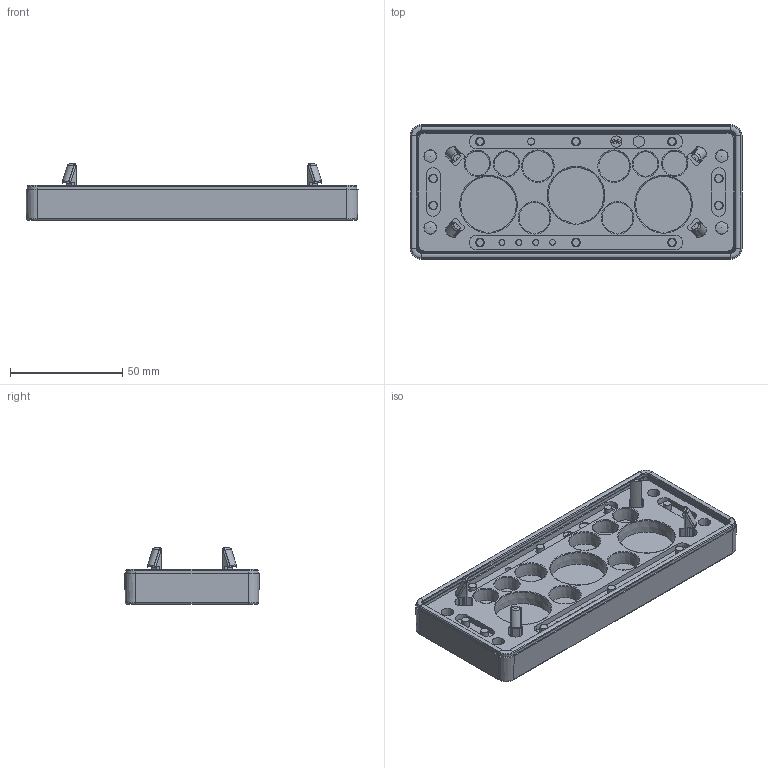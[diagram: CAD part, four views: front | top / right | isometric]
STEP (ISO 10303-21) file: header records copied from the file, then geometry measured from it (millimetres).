
FILE_DESCRIPTION(/* description */ (''),/* implementation_level */ '2;1');
FILE_NAME(/* name */ 'H:\SapWorkDir\Inventor\MP1\ConvertTempPath\87_16_121484_00_A_220620_KDP-X 24-12 ZSB - Blech 1,5-2,0.stp',/* time_stamp */ '2022-06-20T15:41:45+02:00',/* author */ ('BAUER'),/* organization */ (''),/* preprocessor_version */ 'ST-DEVELOPER v16.13',/* originating_system */ 'Autodesk Inventor 2018',/* authorisation */ '');
FILE_SCHEMA (('AUTOMOTIVE_DESIGN { 1 0 10303 214 3 1 1 }'));
Products named in the file (5): 121484; 121381; 105835_MPS_3F1; 105568_MPS_3F1; 104104_MPS_3F1
Assembly tree (4 placements, depth 2):
  121484
    121381
    105835_MPS_3F1
    105568_MPS_3F1
    104104_MPS_3F1
Bounding box: 148 x 60 x 25 mm (x, y, z)
Volume: 72285.9 mm3; surface area: 69480.5 mm2
Topology: 4 solids, 4 shells, 2799 faces, 7166 edges, 4244 vertices
Faces by surface type: plane 1190, bspline 575, cylinder 477, cone 253, torus 200, sphere 104
Full cylindrical faces by diameter (mm): 2.5 x4, 2.6 x4, 3 x1, 3.1 x1, 3.6 x10, 5 x2, 5.5 x8, 6.5 x4, 7.5 x4
Entity records: 95015 total; most frequent: CARTESIAN_POINT 30230, ORIENTED_EDGE 13552, DIRECTION 12917, EDGE_CURVE 6776, AXIS2_PLACEMENT_3D 4504, VERTEX_POINT 4235, LINE 3909, VECTOR 3909
